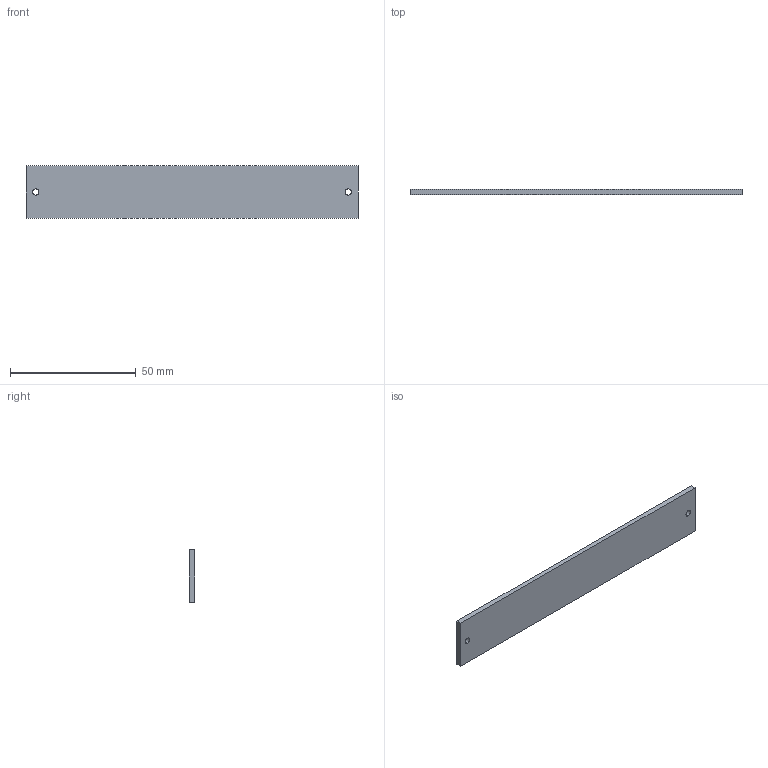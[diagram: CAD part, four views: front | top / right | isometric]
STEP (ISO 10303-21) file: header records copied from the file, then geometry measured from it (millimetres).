
FILE_DESCRIPTION (( 'STEP AP214' ), '1' );
FILE_NAME ('LBRX-00-120-3-X-24V-DIFFUSER.STEP', '2021-11-05T05:25:15', ( '' ), ( '' ), 'SwSTEP 2.0', 'SolidWorks 2021', '' );
FILE_SCHEMA (( 'AUTOMOTIVE_DESIGN' ));
Length unit declared in the file: millimetre
Products named in the file (1): LBRX-00-120-3-X-24V-DIFFUSER
Bounding box: 132 x 2 x 21 mm (x, y, z)
Volume: 5524.4 mm3; surface area: 6167.8 mm2
Topology: 1 solids, 1 shells, 10 faces, 24 edges, 16 vertices
Faces by surface type: plane 6, cylinder 4
Entity records: 338 total; most frequent: DIRECTION 54, CARTESIAN_POINT 51, ORIENTED_EDGE 48, EDGE_CURVE 24, AXIS2_PLACEMENT_3D 19, LINE 16, VECTOR 16, VERTEX_POINT 16
